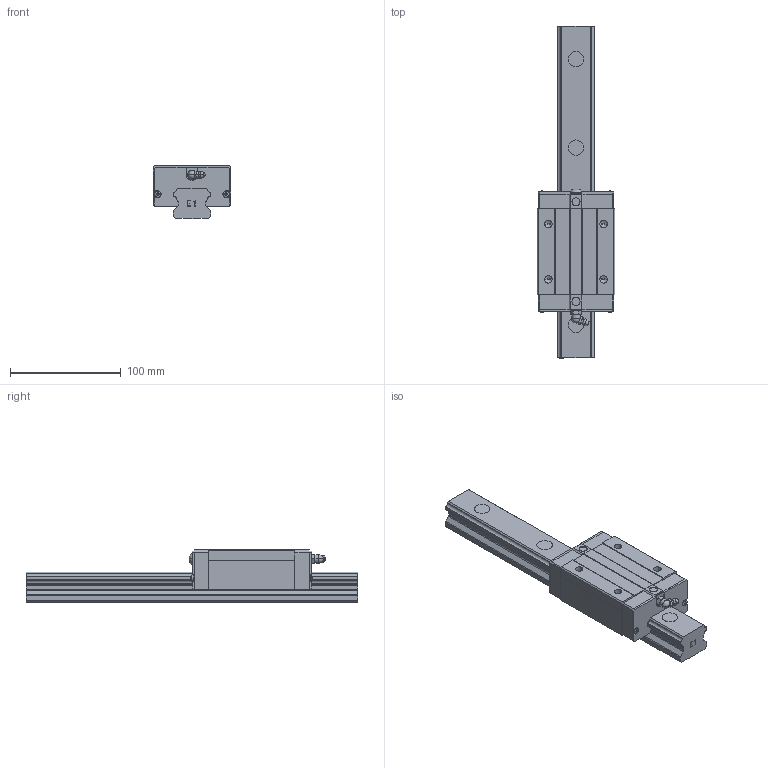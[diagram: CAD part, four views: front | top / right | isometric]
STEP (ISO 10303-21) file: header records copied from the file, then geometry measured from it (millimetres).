
FILE_DESCRIPTION(('no description'),'unknown implementation level');
FILE_NAME('EGH35CA_1_R_300_Z0_H_SS_6.stp',' ',('HIWIN GmbH'),('CADClick - KiM GmbH - www.kimweb.de'),'unknown preprocess','ACIS','unknown authorization');
FILE_SCHEMA(('CONFIG_CONTROL_DESIGN'));
Length unit declared in the file: millimetre
Products named in the file (2): 1; 2
Bounding box: 70 x 300 x 48 mm (x, y, z)
Volume: 453221.1 mm3; surface area: 77360.4 mm2
Topology: 2 solids, 4 shells, 635 faces, 1735 edges, 1128 vertices
Faces by surface type: plane 435, cylinder 138, cone 42, torus 18, sphere 2
Entity records: 20105 total; most frequent: CARTESIAN_POINT 4266, ORIENTED_EDGE 3450, DIRECTION 3153, EDGE_CURVE 1725, LINE 1131, VECTOR 1131, VERTEX_POINT 1128, AXIS2_PLACEMENT_3D 1011
